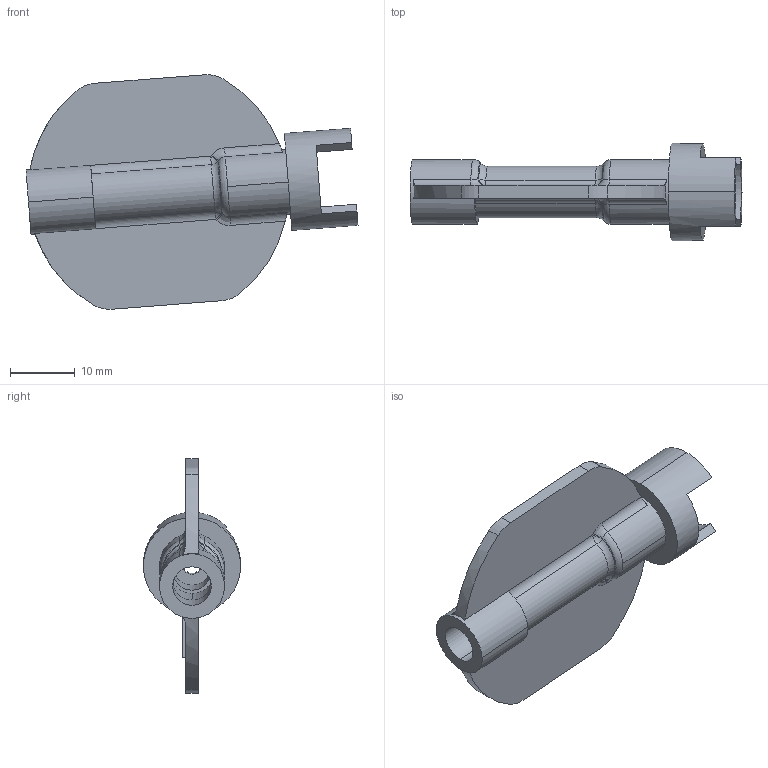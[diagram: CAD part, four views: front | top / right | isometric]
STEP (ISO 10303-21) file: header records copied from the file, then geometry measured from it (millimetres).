
FILE_DESCRIPTION((''),'2;1');
FILE_NAME('0000237058_PRT','2025-11-12T18:39:15',('Wyndorps'),(''),'CREO PARAMETRIC BY PTC INC, 2025010','CREO PARAMETRIC BY PTC INC, 2025010','');
FILE_SCHEMA(('CONFIG_CONTROL_DESIGN'));
Length unit declared in the file: millimetre
Products named in the file (1): 0000237058_PRT
Bounding box: 51.21 x 15 x 36.17 mm (x, y, z)
Volume: 3912.8 mm3; surface area: 4678.3 mm2
Topology: 1 solids, 1 shells, 145 faces, 358 edges, 228 vertices
Faces by surface type: plane 65, cylinder 38, extrusion 15, bspline 12, torus 6, sphere 6, cone 3
Entity records: 4988 total; most frequent: CARTESIAN_POINT 1595, ORIENTED_EDGE 716, DIRECTION 647, EDGE_CURVE 358, VERTEX_POINT 228, AXIS2_PLACEMENT_3D 220, VECTOR 207, LINE 192
